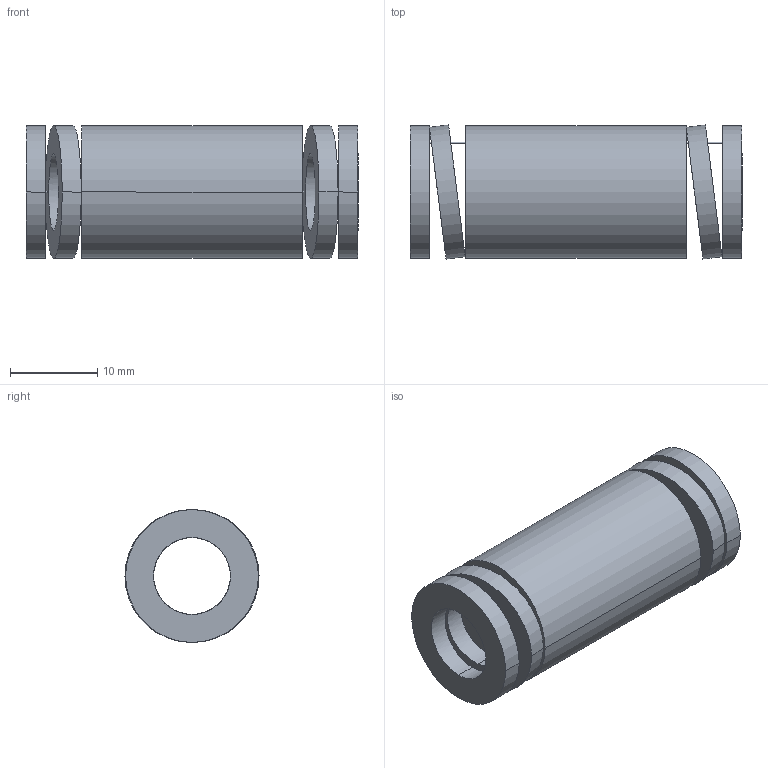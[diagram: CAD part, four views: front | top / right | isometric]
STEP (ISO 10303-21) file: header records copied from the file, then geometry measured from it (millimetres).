
FILE_DESCRIPTION(('CATIA V5 STEP Exchange'),'2;1');
FILE_NAME('C:\Users\Utente\Desktop\IO LAVORO\3D X SITO CF\X SITO\3D files 392B\392-B16-038.stp','2021-08-12T14:07:47+00:00',('none'),('none'),'CATIA Version 5 Release 20 GA (IN-10)','CATIA V5 STEP AP203','none');
FILE_SCHEMA(('CONFIG_CONTROL_DESIGN'));
Length unit declared in the file: millimetre
Products named in the file (1): 392-B16-038
Bounding box: 38 x 15.36 x 15.2 mm (x, y, z)
Volume: 4099.7 mm3; surface area: 3771.2 mm2
Topology: 1 solids, 1 shells, 38 faces, 92 edges, 64 vertices
Faces by surface type: cylinder 28, plane 10
Entity records: 1572 total; most frequent: CARTESIAN_POINT 681, ORIENTED_EDGE 184, DIRECTION 130, EDGE_CURVE 92, AXIS2_PLACEMENT_3D 65, VERTEX_POINT 64, EDGE_LOOP 56, ADVANCED_FACE 38
